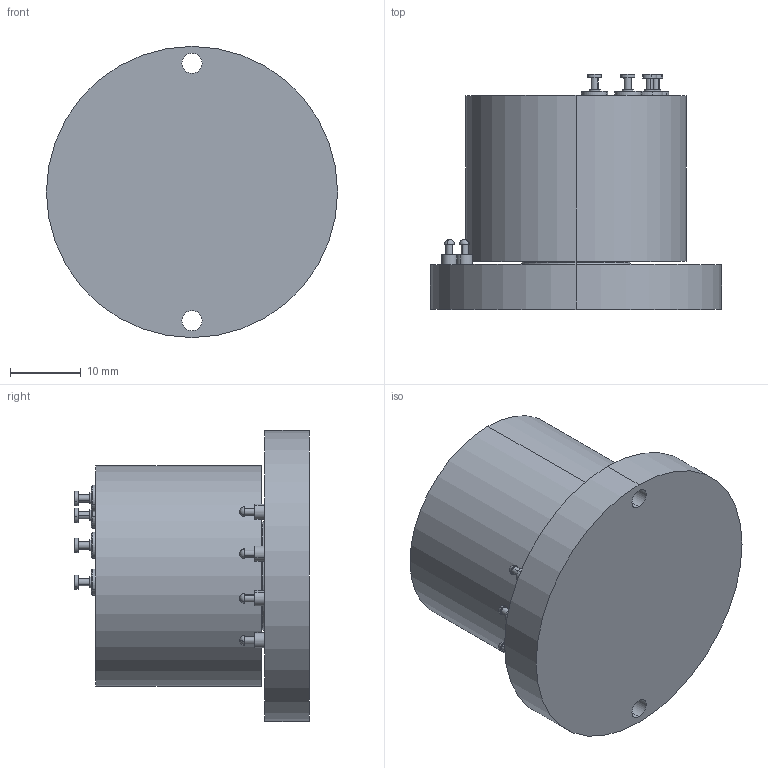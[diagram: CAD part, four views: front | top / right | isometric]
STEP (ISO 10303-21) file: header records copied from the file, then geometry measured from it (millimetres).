
FILE_DESCRIPTION (( 'STEP AP214' ), '1' );
FILE_NAME ('1016067.STEP', '2020-07-13T14:41:36', ( '' ), ( '' ), 'SwSTEP 2.0', 'SolidWorks 2019', '' );
FILE_SCHEMA (( 'AUTOMOTIVE_DESIGN' ));
Length unit declared in the file: inch
Products named in the file (1): 1016067
Bounding box: 41.26 x 33.29 x 41.26 mm (x, y, z)
Volume: 26331.7 mm3; surface area: 7287.6 mm2
Topology: 1 solids, 1 shells, 593 faces, 1531 edges, 1016 vertices
Faces by surface type: plane 336, bspline 171, cylinder 68, sphere 8, cone 8, torus 2
Entity records: 26911 total; most frequent: CARTESIAN_POINT 13472, ORIENTED_EDGE 3030, DIRECTION 2183, EDGE_CURVE 1515, VECTOR 1009, LINE 1009, VERTEX_POINT 1008, EDGE_LOOP 681
